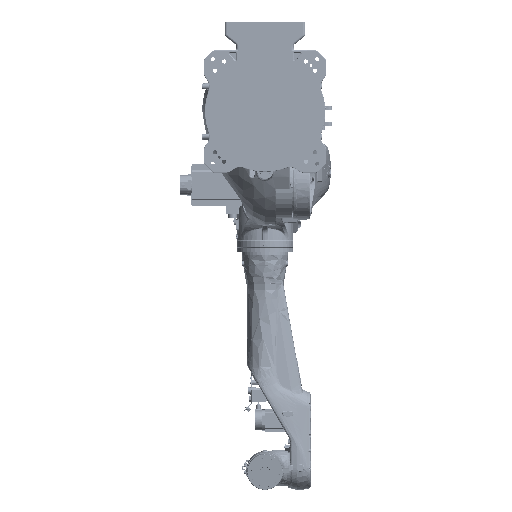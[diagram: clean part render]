
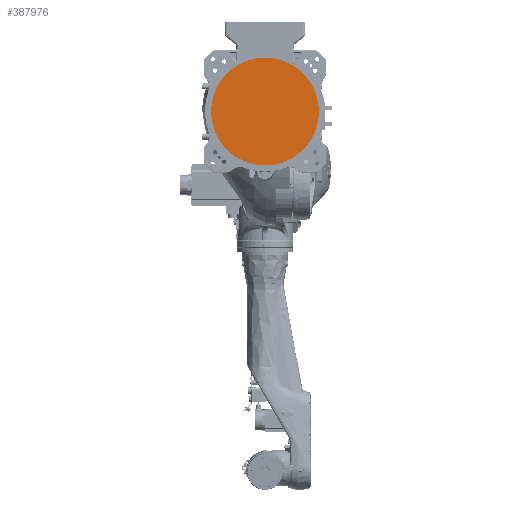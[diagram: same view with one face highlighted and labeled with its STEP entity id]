
A CAD part, front view. The second image highlights one B-rep face of the part: STEP entity #387976.
In plain terms, the highlighted planar face has unit normal (0, -1, 0).
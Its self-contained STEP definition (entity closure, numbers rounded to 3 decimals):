
#2493 = VERTEX_POINT ( 'NONE', #405282 ) ;
#41573 = ORIENTED_EDGE ( 'NONE', *, *, #471836, .F. ) ;
#48600 = PLANE ( 'NONE',  #199354 ) ;
#65498 = CIRCLE ( 'NONE', #74826, 234.901 ) ;
#70209 = DIRECTION ( 'NONE',  ( 0., 1., 0. ) ) ;
#74826 = AXIS2_PLACEMENT_3D ( 'NONE', #318753, #167677, #280102 ) ;
#76575 = DIRECTION ( 'NONE',  ( 0., 0., -1. ) ) ;
#81714 = CARTESIAN_POINT ( 'NONE',  ( 0., 4., 234.901 ) ) ;
#100743 = AXIS2_PLACEMENT_3D ( 'NONE', #292096, #70209, #76575 ) ;
#119442 = CARTESIAN_POINT ( 'NONE',  ( 0., 4., 0. ) ) ;
#161263 = VERTEX_POINT ( 'NONE', #81714 ) ;
#167677 = DIRECTION ( 'NONE',  ( 0., 1., 0. ) ) ;
#199354 = AXIS2_PLACEMENT_3D ( 'NONE', #119442, #342833, #228765 ) ;
#228765 = DIRECTION ( 'NONE',  ( 0., 0., -1. ) ) ;
#280102 = DIRECTION ( 'NONE',  ( 0., 0., -1. ) ) ;
#292096 = CARTESIAN_POINT ( 'NONE',  ( 0., 4., 0. ) ) ;
#304610 = CIRCLE ( 'NONE', #100743, 234.901 ) ;
#318753 = CARTESIAN_POINT ( 'NONE',  ( 0., 4., 0. ) ) ;
#342833 = DIRECTION ( 'NONE',  ( 0., 1., 0. ) ) ;
#352503 = ORIENTED_EDGE ( 'NONE', *, *, #388888, .F. ) ;
#369915 = EDGE_LOOP ( 'NONE', ( #352503, #41573 ) ) ;
#387976 = ADVANCED_FACE ( 'NONE', ( #402888 ), #48600, .F. ) ;
#388888 = EDGE_CURVE ( 'NONE', #2493, #161263, #304610, .T. ) ;
#402888 = FACE_OUTER_BOUND ( 'NONE', #369915, .T. ) ;
#405282 = CARTESIAN_POINT ( 'NONE',  ( 0., 4., -234.901 ) ) ;
#471836 = EDGE_CURVE ( 'NONE', #161263, #2493, #65498, .T. ) ;
